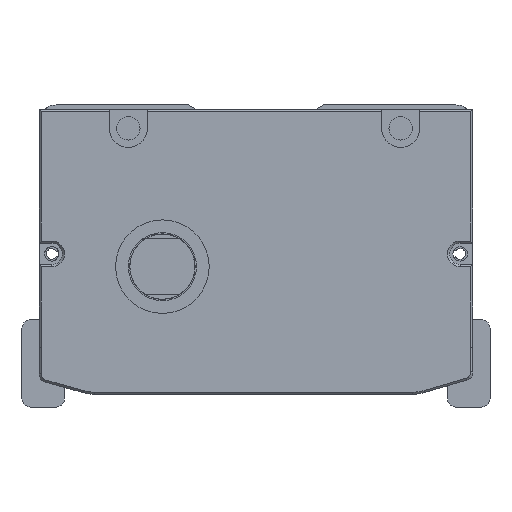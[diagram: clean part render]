
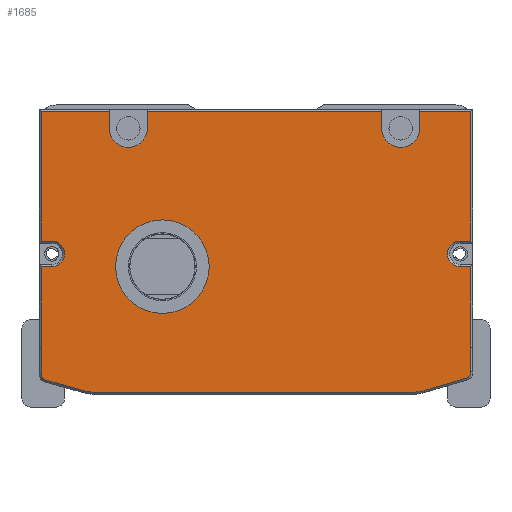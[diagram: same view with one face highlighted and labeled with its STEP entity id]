
A CAD part, front view. The second image highlights one B-rep face of the part: STEP entity #1685.
In plain terms, the highlighted planar face has unit normal (0, -1, 0).
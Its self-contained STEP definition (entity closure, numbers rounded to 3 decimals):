
#1002=FACE_BOUND('',#3547,.T.);
#1003=FACE_BOUND('',#3548,.T.);
#1685=ADVANCED_FACE('',(#1002,#1003),#2388,.F.);
#2388=PLANE('',#14470);
#3547=EDGE_LOOP('',(#6417));
#3548=EDGE_LOOP('',(#6418,#6419,#6420,#6421,#6422,#6423,#6424,#6425,#6426,
#6427,#6428,#6429,#6430,#6431,#6432,#6433,#6434,#6435,#6436,#6437,#6438,
#6439,#6440,#6441,#6442,#6443,#6444,#6445));
#4529=CIRCLE('',#14381,3.);
#4532=CIRCLE('',#14389,3.);
#4535=CIRCLE('',#14401,1.5);
#4537=CIRCLE('',#14405,9.5);
#4539=CIRCLE('',#14409,9.5);
#4541=CIRCLE('',#14413,1.5);
#4546=CIRCLE('',#14428,4.5);
#4550=CIRCLE('',#14434,4.5);
#4551=CIRCLE('',#14443,11.);
#6417=ORIENTED_EDGE('',*,*,#10904,.F.);
#6418=ORIENTED_EDGE('',*,*,#10798,.T.);
#6419=ORIENTED_EDGE('',*,*,#10694,.T.);
#6420=ORIENTED_EDGE('',*,*,#10885,.T.);
#6421=ORIENTED_EDGE('',*,*,#10698,.T.);
#6422=ORIENTED_EDGE('',*,*,#10933,.T.);
#6423=ORIENTED_EDGE('',*,*,#10704,.T.);
#6424=ORIENTED_EDGE('',*,*,#10881,.T.);
#6425=ORIENTED_EDGE('',*,*,#10708,.T.);
#6426=ORIENTED_EDGE('',*,*,#10934,.T.);
#6427=ORIENTED_EDGE('',*,*,#10802,.T.);
#6428=ORIENTED_EDGE('',*,*,#10808,.T.);
#6429=ORIENTED_EDGE('',*,*,#10811,.T.);
#6430=ORIENTED_EDGE('',*,*,#10814,.T.);
#6431=ORIENTED_EDGE('',*,*,#10816,.T.);
#6432=ORIENTED_EDGE('',*,*,#10846,.T.);
#6433=ORIENTED_EDGE('',*,*,#10850,.T.);
#6434=ORIENTED_EDGE('',*,*,#10853,.T.);
#6435=ORIENTED_EDGE('',*,*,#10856,.T.);
#6436=ORIENTED_EDGE('',*,*,#10859,.T.);
#6437=ORIENTED_EDGE('',*,*,#10862,.T.);
#6438=ORIENTED_EDGE('',*,*,#10865,.T.);
#6439=ORIENTED_EDGE('',*,*,#10867,.T.);
#6440=ORIENTED_EDGE('',*,*,#10844,.T.);
#6441=ORIENTED_EDGE('',*,*,#10834,.T.);
#6442=ORIENTED_EDGE('',*,*,#10831,.T.);
#6443=ORIENTED_EDGE('',*,*,#10828,.T.);
#6444=ORIENTED_EDGE('',*,*,#10825,.T.);
#6445=ORIENTED_EDGE('',*,*,#10820,.T.);
#9247=VERTEX_POINT('',#21263);
#9248=VERTEX_POINT('',#21265);
#9251=VERTEX_POINT('',#21272);
#9252=VERTEX_POINT('',#21274);
#9257=VERTEX_POINT('',#21285);
#9258=VERTEX_POINT('',#21287);
#9261=VERTEX_POINT('',#21294);
#9262=VERTEX_POINT('',#21296);
#9320=VERTEX_POINT('',#21482);
#9323=VERTEX_POINT('',#21490);
#9324=VERTEX_POINT('',#21491);
#9329=VERTEX_POINT('',#21502);
#9331=VERTEX_POINT('',#21508);
#9332=VERTEX_POINT('',#21513);
#9334=VERTEX_POINT('',#21519);
#9337=VERTEX_POINT('',#21527);
#9339=VERTEX_POINT('',#21533);
#9341=VERTEX_POINT('',#21539);
#9343=VERTEX_POINT('',#21545);
#9345=VERTEX_POINT('',#21551);
#9352=VERTEX_POINT('',#21575);
#9353=VERTEX_POINT('',#21579);
#9356=VERTEX_POINT('',#21586);
#9358=VERTEX_POINT('',#21592);
#9360=VERTEX_POINT('',#21598);
#9362=VERTEX_POINT('',#21604);
#9364=VERTEX_POINT('',#21610);
#9366=VERTEX_POINT('',#21616);
#9378=VERTEX_POINT('',#21689);
#10694=EDGE_CURVE('',#9248,#9247,#12343,.T.);
#10698=EDGE_CURVE('',#9252,#9251,#12347,.T.);
#10704=EDGE_CURVE('',#9258,#9257,#12353,.T.);
#10708=EDGE_CURVE('',#9262,#9261,#12357,.T.);
#10798=EDGE_CURVE('',#9320,#9248,#12430,.T.);
#10802=EDGE_CURVE('',#9323,#9324,#12434,.T.);
#10808=EDGE_CURVE('',#9324,#9329,#12440,.T.);
#10811=EDGE_CURVE('',#9329,#9331,#4529,.T.);
#10814=EDGE_CURVE('',#9331,#9332,#12444,.T.);
#10816=EDGE_CURVE('',#9332,#9334,#12446,.T.);
#10820=EDGE_CURVE('',#9337,#9320,#12450,.T.);
#10825=EDGE_CURVE('',#9339,#9337,#12455,.T.);
#10828=EDGE_CURVE('',#9341,#9339,#4532,.T.);
#10831=EDGE_CURVE('',#9343,#9341,#12459,.T.);
#10834=EDGE_CURVE('',#9345,#9343,#12462,.T.);
#10844=EDGE_CURVE('',#9352,#9345,#12470,.T.);
#10846=EDGE_CURVE('',#9334,#9353,#12472,.T.);
#10850=EDGE_CURVE('',#9353,#9356,#4535,.T.);
#10853=EDGE_CURVE('',#9356,#9358,#12477,.T.);
#10856=EDGE_CURVE('',#9358,#9360,#4537,.T.);
#10859=EDGE_CURVE('',#9360,#9362,#12481,.T.);
#10862=EDGE_CURVE('',#9362,#9364,#4539,.T.);
#10865=EDGE_CURVE('',#9364,#9366,#12485,.T.);
#10867=EDGE_CURVE('',#9366,#9352,#4541,.T.);
#10881=EDGE_CURVE('',#9257,#9262,#4546,.T.);
#10885=EDGE_CURVE('',#9247,#9252,#4550,.T.);
#10904=EDGE_CURVE('',#9378,#9378,#4551,.T.);
#10933=EDGE_CURVE('',#9251,#9258,#12536,.T.);
#10934=EDGE_CURVE('',#9261,#9323,#12537,.T.);
#12343=LINE('',#21264,#13281);
#12347=LINE('',#21273,#13285);
#12353=LINE('',#21286,#13291);
#12357=LINE('',#21295,#13295);
#12430=LINE('',#21481,#13368);
#12434=LINE('',#21489,#13372);
#12440=LINE('',#21503,#13378);
#12444=LINE('',#21515,#13382);
#12446=LINE('',#21518,#13384);
#12450=LINE('',#21526,#13388);
#12455=LINE('',#21536,#13393);
#12459=LINE('',#21548,#13397);
#12462=LINE('',#21554,#13400);
#12470=LINE('',#21574,#13408);
#12472=LINE('',#21578,#13410);
#12477=LINE('',#21593,#13415);
#12481=LINE('',#21605,#13419);
#12485=LINE('',#21617,#13423);
#12536=LINE('',#21751,#13474);
#12537=LINE('',#21752,#13475);
#13281=VECTOR('',#16573,1.);
#13285=VECTOR('',#16579,1.);
#13291=VECTOR('',#16587,1.);
#13295=VECTOR('',#16593,1.);
#13368=VECTOR('',#16760,1.);
#13372=VECTOR('',#16766,1.);
#13378=VECTOR('',#16774,1.);
#13382=VECTOR('',#16786,1.);
#13384=VECTOR('',#16790,1.);
#13388=VECTOR('',#16796,1.);
#13393=VECTOR('',#16803,1.);
#13397=VECTOR('',#16815,1.);
#13400=VECTOR('',#16820,1.);
#13408=VECTOR('',#16842,1.);
#13410=VECTOR('',#16846,1.);
#13415=VECTOR('',#16859,1.);
#13419=VECTOR('',#16871,1.);
#13423=VECTOR('',#16883,1.);
#13474=VECTOR('',#17050,1.);
#13475=VECTOR('',#17051,1.);
#14381=AXIS2_PLACEMENT_3D('',#21509,#16779,#16780);
#14389=AXIS2_PLACEMENT_3D('',#21542,#16809,#16810);
#14401=AXIS2_PLACEMENT_3D('',#21587,#16852,#16853);
#14405=AXIS2_PLACEMENT_3D('',#21599,#16864,#16865);
#14409=AXIS2_PLACEMENT_3D('',#21611,#16876,#16877);
#14413=AXIS2_PLACEMENT_3D('',#21620,#16887,#16888);
#14428=AXIS2_PLACEMENT_3D('',#21646,#16926,#16927);
#14434=AXIS2_PLACEMENT_3D('',#21654,#16938,#16939);
#14443=AXIS2_PLACEMENT_3D('',#21688,#16974,#16975);
#14470=AXIS2_PLACEMENT_3D('',#21753,#17052,#17053);
#16573=DIRECTION('',(0.,0.,-1.));
#16579=DIRECTION('',(0.,0.,1.));
#16587=DIRECTION('',(0.,0.,-1.));
#16593=DIRECTION('',(0.,0.,1.));
#16760=DIRECTION('',(-1.,0.,0.));
#16766=DIRECTION('',(0.,0.,-1.));
#16774=DIRECTION('',(1.,0.,0.));
#16779=DIRECTION('',(0.,1.,0.));
#16780=DIRECTION('',(0.,0.,1.));
#16786=DIRECTION('',(-1.,0.,0.));
#16790=DIRECTION('',(0.,0.,-1.));
#16796=DIRECTION('',(0.,0.,1.));
#16803=DIRECTION('',(1.,0.,0.));
#16809=DIRECTION('',(0.,1.,0.));
#16810=DIRECTION('',(0.,0.,1.));
#16815=DIRECTION('',(-1.,0.,0.));
#16820=DIRECTION('',(0.,0.,1.));
#16842=DIRECTION('',(0.,0.,1.));
#16846=DIRECTION('',(0.,0.,-1.));
#16852=DIRECTION('',(0.,-1.,0.));
#16853=DIRECTION('',(0.,0.,1.));
#16859=DIRECTION('',(0.963,0.,-0.269));
#16864=DIRECTION('',(0.,-1.,0.));
#16865=DIRECTION('',(0.,0.,1.));
#16871=DIRECTION('',(1.,0.,0.));
#16876=DIRECTION('',(0.,-1.,0.));
#16877=DIRECTION('',(0.,0.,1.));
#16883=DIRECTION('',(0.959,0.,0.282));
#16887=DIRECTION('',(0.,-1.,0.));
#16888=DIRECTION('',(0.,0.,1.));
#16926=DIRECTION('',(0.,1.,0.));
#16927=DIRECTION('',(0.,0.,1.));
#16938=DIRECTION('',(0.,1.,0.));
#16939=DIRECTION('',(0.,0.,1.));
#16974=DIRECTION('',(0.,-1.,0.));
#16975=DIRECTION('',(0.,0.,1.));
#17050=DIRECTION('',(-1.,0.,0.));
#17051=DIRECTION('',(-1.,0.,0.));
#17052=DIRECTION('',(0.,1.,0.));
#17053=DIRECTION('',(1.,0.,0.));
#21263=CARTESIAN_POINT('',(35.308,-107.5,-5.5));
#21264=CARTESIAN_POINT('',(35.308,-107.5,-1.));
#21265=CARTESIAN_POINT('',(35.308,-107.5,-1.5));
#21272=CARTESIAN_POINT('',(26.308,-107.5,-1.5));
#21273=CARTESIAN_POINT('',(26.308,-107.5,-1.));
#21274=CARTESIAN_POINT('',(26.308,-107.5,-5.5));
#21285=CARTESIAN_POINT('',(-28.692,-107.5,-5.5));
#21286=CARTESIAN_POINT('',(-28.692,-107.5,-1.));
#21287=CARTESIAN_POINT('',(-28.692,-107.5,-1.5));
#21294=CARTESIAN_POINT('',(-37.692,-107.5,-1.5));
#21295=CARTESIAN_POINT('',(-37.692,-107.5,-1.));
#21296=CARTESIAN_POINT('',(-37.692,-107.5,-5.5));
#21481=CARTESIAN_POINT('',(-53.692,-107.5,-1.5));
#21482=CARTESIAN_POINT('',(47.308,-107.5,-1.5));
#21489=CARTESIAN_POINT('',(-53.692,-107.5,-32.5));
#21490=CARTESIAN_POINT('',(-53.692,-107.5,-1.5));
#21491=CARTESIAN_POINT('',(-53.692,-107.5,-32.));
#21502=CARTESIAN_POINT('',(-51.192,-107.5,-32.));
#21503=CARTESIAN_POINT('',(-3.192,-107.5,-32.));
#21508=CARTESIAN_POINT('',(-51.192,-107.5,-38.));
#21509=CARTESIAN_POINT('',(-51.192,-107.5,-35.));
#21513=CARTESIAN_POINT('',(-53.692,-107.5,-38.));
#21515=CARTESIAN_POINT('',(-3.192,-107.5,-38.));
#21518=CARTESIAN_POINT('',(-53.692,-107.5,-57.));
#21519=CARTESIAN_POINT('',(-53.692,-107.5,-57.));
#21526=CARTESIAN_POINT('',(47.308,-107.5,-1.5));
#21527=CARTESIAN_POINT('',(47.308,-107.5,-32.));
#21533=CARTESIAN_POINT('',(44.808,-107.5,-32.));
#21536=CARTESIAN_POINT('',(-3.192,-107.5,-32.));
#21539=CARTESIAN_POINT('',(44.808,-107.5,-38.));
#21542=CARTESIAN_POINT('',(44.808,-107.5,-35.));
#21545=CARTESIAN_POINT('',(47.308,-107.5,-38.));
#21548=CARTESIAN_POINT('',(-3.192,-107.5,-38.));
#21551=CARTESIAN_POINT('',(47.308,-107.5,-57.));
#21554=CARTESIAN_POINT('',(47.308,-107.5,-37.5));
#21574=CARTESIAN_POINT('',(47.308,-107.5,-37.5));
#21575=CARTESIAN_POINT('',(47.308,-107.5,-62.758));
#21578=CARTESIAN_POINT('',(-53.692,-107.5,-59.712));
#21579=CARTESIAN_POINT('',(-53.692,-107.5,-63.212));
#21586=CARTESIAN_POINT('',(-52.596,-107.5,-64.657));
#21587=CARTESIAN_POINT('',(-52.192,-107.5,-63.212));
#21592=CARTESIAN_POINT('',(-43.674,-107.5,-67.15));
#21593=CARTESIAN_POINT('',(-43.674,-107.5,-67.15));
#21598=CARTESIAN_POINT('',(-41.118,-107.5,-67.5));
#21599=CARTESIAN_POINT('',(-41.118,-107.5,-58.));
#21604=CARTESIAN_POINT('',(33.631,-107.5,-67.5));
#21605=CARTESIAN_POINT('',(33.631,-107.5,-67.5));
#21610=CARTESIAN_POINT('',(36.312,-107.5,-67.114));
#21611=CARTESIAN_POINT('',(33.631,-107.5,-58.));
#21616=CARTESIAN_POINT('',(46.231,-107.5,-64.197));
#21617=CARTESIAN_POINT('',(46.231,-107.5,-64.197));
#21620=CARTESIAN_POINT('',(45.808,-107.5,-62.758));
#21646=CARTESIAN_POINT('',(-33.192,-107.5,-5.5));
#21654=CARTESIAN_POINT('',(30.808,-107.5,-5.5));
#21688=CARTESIAN_POINT('',(-25.192,-107.5,-38.));
#21689=CARTESIAN_POINT('',(-25.192,-107.5,-27.));
#21751=CARTESIAN_POINT('',(-53.692,-107.5,-1.5));
#21752=CARTESIAN_POINT('',(-53.692,-107.5,-1.5));
#21753=CARTESIAN_POINT('',(-3.192,-107.5,-1.));
